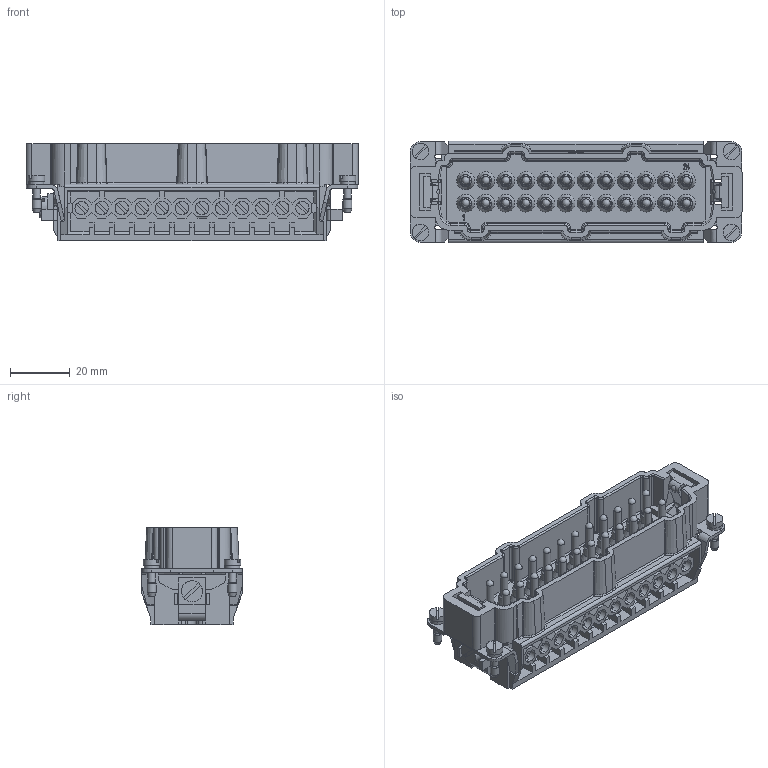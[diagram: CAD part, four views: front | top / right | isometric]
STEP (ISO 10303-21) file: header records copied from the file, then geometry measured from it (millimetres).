
FILE_DESCRIPTION(/* description */ (''),/* implementation_level */ '2;1');
FILE_NAME(/* name */ '100095103ugm000_f.stp',/* time_stamp */ '2022-03-11T10:41:40+01:00',/* author */ (''),/* organization */ (''),/* preprocessor_version */ 'ST-DEVELOPER v16.7',/* originating_system */ 'SIEMENS PLM Software NX 1911',/* authorisation */ '');
FILE_SCHEMA (('AUTOMOTIVE_DESIGN { 1 0 10303 214 3 1 1 1 }'));
Products named in the file (1): 100095103ugm000_f
Bounding box: 110.85 x 33.9 x 32.42 mm (x, y, z)
Volume: 47915.5 mm3; surface area: 37398 mm2
Topology: 1 solids, 1 shells, 3095 faces, 8435 edges, 5436 vertices
Faces by surface type: plane 1599, bspline 746, cylinder 494, cone 114, torus 52, extrusion 50, sphere 40
Full cylindrical faces by diameter (mm): 0.335 x1, 0.492 x1, 0.6 x2, 2.438 x2, 2.5 x30, 3 x4, 3.2 x25, 5 x4, 5.5 x4, 7 x1
Entity records: 139457 total; most frequent: CARTESIAN_POINT 53844, ORIENTED_EDGE 16078, DIRECTION 12374, EDGE_CURVE 8039, VERTEX_POINT 5222, VECTOR 4790, LINE 4740, AXIS2_PLACEMENT_3D 3792
